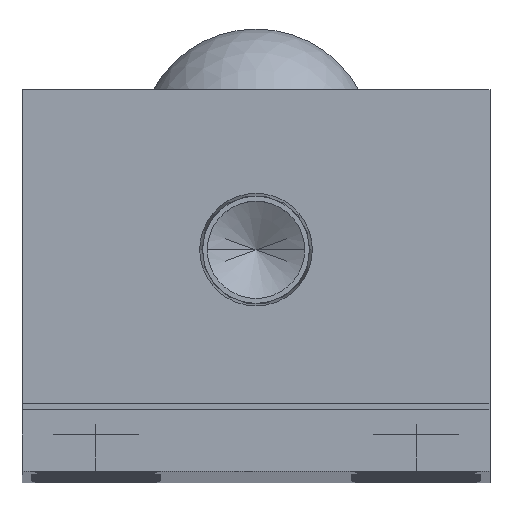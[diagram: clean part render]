
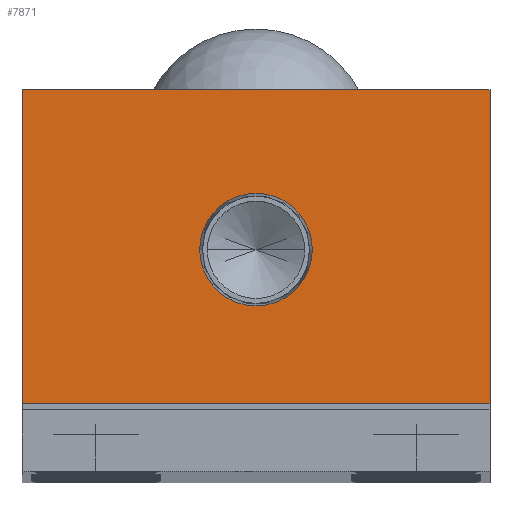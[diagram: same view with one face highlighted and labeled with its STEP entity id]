
A CAD part, top view. The second image highlights one B-rep face of the part: STEP entity #7871.
In plain terms, the highlighted planar face has unit normal (0, 0, 1).
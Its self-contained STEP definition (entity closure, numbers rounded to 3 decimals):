
#10 = CARTESIAN_POINT ( 'NONE',  ( -19., 5.5, 0. ) ) ;
#30 = VERTEX_POINT ( 'NONE', #7011 ) ;
#51 = LINE ( 'NONE', #849, #5111 ) ;
#141 = VERTEX_POINT ( 'NONE', #4413 ) ;
#489 = LINE ( 'NONE', #5117, #3698 ) ;
#508 = ORIENTED_EDGE ( 'NONE', *, *, #4299, .F. ) ;
#781 = DIRECTION ( 'NONE',  ( -1., 0., 0. ) ) ;
#820 = ORIENTED_EDGE ( 'NONE', *, *, #8023, .T. ) ;
#849 = CARTESIAN_POINT ( 'NONE',  ( -19., 31., 0. ) ) ;
#865 = DIRECTION ( 'NONE',  ( 1., 0., 0. ) ) ;
#937 = DIRECTION ( 'NONE',  ( 0., 0., 1. ) ) ;
#978 = AXIS2_PLACEMENT_3D ( 'NONE', #2977, #7345, #865 ) ;
#1032 = ORIENTED_EDGE ( 'NONE', *, *, #12618, .T. ) ;
#1238 = EDGE_CURVE ( 'NONE', #12441, #11563, #51, .T. ) ;
#1369 = CIRCLE ( 'NONE', #7635, 4.574 ) ;
#1934 = DIRECTION ( 'NONE',  ( 0., -1., 0. ) ) ;
#1940 = VECTOR ( 'NONE', #9348, 1000. ) ;
#2429 = LINE ( 'NONE', #9719, #8169 ) ;
#2977 = CARTESIAN_POINT ( 'NONE',  ( 0., 0., 0. ) ) ;
#3255 = DIRECTION ( 'NONE',  ( 1., 0., 0. ) ) ;
#3367 = CIRCLE ( 'NONE', #10964, 4.574 ) ;
#3599 = CARTESIAN_POINT ( 'NONE',  ( 0., 18., 0. ) ) ;
#3698 = VECTOR ( 'NONE', #781, 1000. ) ;
#3704 = CARTESIAN_POINT ( 'NONE',  ( -19., 31., 0. ) ) ;
#3769 = EDGE_LOOP ( 'NONE', ( #508, #13873 ) ) ;
#4122 = FACE_OUTER_BOUND ( 'NONE', #4912, .T. ) ;
#4299 = EDGE_CURVE ( 'NONE', #141, #13092, #1369, .T. ) ;
#4413 = CARTESIAN_POINT ( 'NONE',  ( 4.574, 18., 0. ) ) ;
#4589 = EDGE_CURVE ( 'NONE', #13092, #141, #3367, .T. ) ;
#4685 = DIRECTION ( 'NONE',  ( 1., 0., 0. ) ) ;
#4785 = LINE ( 'NONE', #10427, #1940 ) ;
#4912 = EDGE_LOOP ( 'NONE', ( #820, #9562, #1032, #12258 ) ) ;
#5111 = VECTOR ( 'NONE', #1934, 1000. ) ;
#5117 = CARTESIAN_POINT ( 'NONE',  ( 19., 31., 0. ) ) ;
#7011 = CARTESIAN_POINT ( 'NONE',  ( 19., 5.5, 0. ) ) ;
#7107 = VERTEX_POINT ( 'NONE', #7191 ) ;
#7191 = CARTESIAN_POINT ( 'NONE',  ( 19., 31., 0. ) ) ;
#7345 = DIRECTION ( 'NONE',  ( 0., 0., 1. ) ) ;
#7422 = CARTESIAN_POINT ( 'NONE',  ( 0., 18., 0. ) ) ;
#7635 = AXIS2_PLACEMENT_3D ( 'NONE', #7422, #937, #8493 ) ;
#7828 = EDGE_CURVE ( 'NONE', #30, #7107, #4785, .T. ) ;
#7871 = ADVANCED_FACE ( 'NONE', ( #12712, #4122 ), #13759, .T. ) ;
#8023 = EDGE_CURVE ( 'NONE', #11563, #30, #2429, .T. ) ;
#8169 = VECTOR ( 'NONE', #3255, 1000. ) ;
#8493 = DIRECTION ( 'NONE',  ( 1., 0., 0. ) ) ;
#9348 = DIRECTION ( 'NONE',  ( 0., 1., 0. ) ) ;
#9562 = ORIENTED_EDGE ( 'NONE', *, *, #7828, .T. ) ;
#9719 = CARTESIAN_POINT ( 'NONE',  ( 19., 5.5, 0. ) ) ;
#10427 = CARTESIAN_POINT ( 'NONE',  ( 19., 5.5, 0. ) ) ;
#10964 = AXIS2_PLACEMENT_3D ( 'NONE', #3599, #11139, #4685 ) ;
#11139 = DIRECTION ( 'NONE',  ( 0., 0., 1. ) ) ;
#11563 = VERTEX_POINT ( 'NONE', #10 ) ;
#12258 = ORIENTED_EDGE ( 'NONE', *, *, #1238, .T. ) ;
#12441 = VERTEX_POINT ( 'NONE', #3704 ) ;
#12618 = EDGE_CURVE ( 'NONE', #7107, #12441, #489, .T. ) ;
#12712 = FACE_BOUND ( 'NONE', #3769, .T. ) ;
#13092 = VERTEX_POINT ( 'NONE', #13416 ) ;
#13416 = CARTESIAN_POINT ( 'NONE',  ( -4.574, 18., 0. ) ) ;
#13759 = PLANE ( 'NONE',  #978 ) ;
#13873 = ORIENTED_EDGE ( 'NONE', *, *, #4589, .F. ) ;
